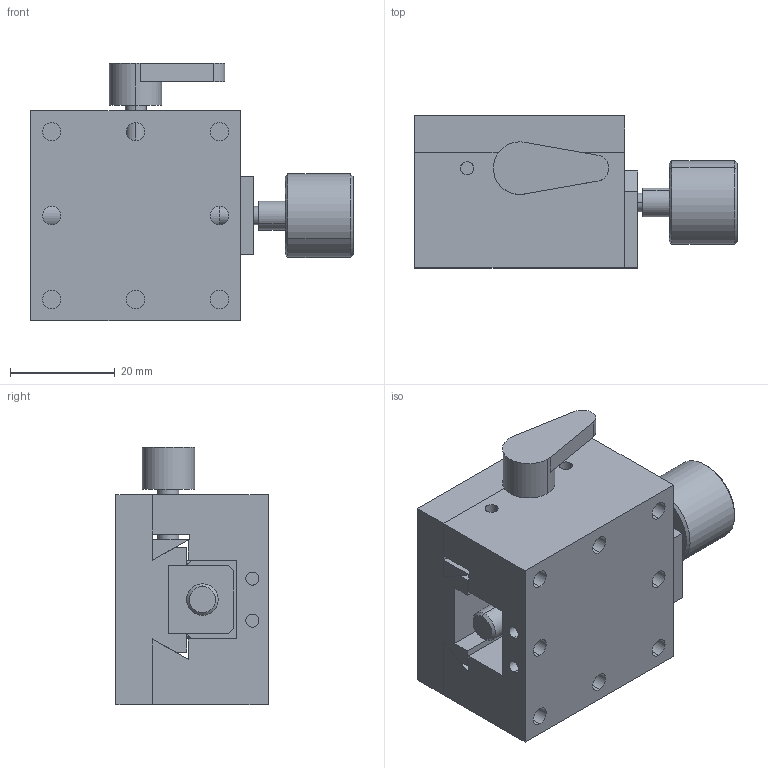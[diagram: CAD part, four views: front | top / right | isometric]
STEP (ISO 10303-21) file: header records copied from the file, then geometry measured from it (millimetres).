
FILE_DESCRIPTION (( 'STEP AP203' ), '1' );
FILE_NAME ('JD1-43S.STEP', '2019-01-31T06:40:34', ( 'Windows 餌辨濠' ), ( '' ), 'SwSTEP 2.0', 'SolidWorks 2018', '' );
FILE_SCHEMA (( 'CONFIG_CONTROL_DESIGN' ));
Length unit declared in the file: millimetre
Products named in the file (8): FC-NB-10X17.5; FB-JD43S-SH-01; FB-JD43S-NTB-01; FB-JD43S-BD-03; FB-JD43S-SC-01; JD1-43S; FB-JD43S-BK-C-01; FB-JD43S-BD-01
Assembly tree (7 placements, depth 2):
  JD1-43S
    FB-JD43S-BD-03
    FB-JD43S-BD-01
    FB-JD43S-BK-C-01
    FB-JD43S-SC-01
    FB-JD43S-SH-01
    FB-JD43S-NTB-01
    FC-NB-10X17.5
Bounding box: 61.5 x 29 x 49 mm (x, y, z)
Volume: 40134.4 mm3; surface area: 21959.2 mm2
Topology: 7 solids, 7 shells, 204 faces, 518 edges, 330 vertices
Faces by surface type: cylinder 101, plane 81, cone 22
Entity records: 7194 total; most frequent: CARTESIAN_POINT 1266, DIRECTION 1112, ORIENTED_EDGE 1004, EDGE_CURVE 502, AXIS2_PLACEMENT_3D 420, VERTEX_POINT 330, LINE 272, VECTOR 272
